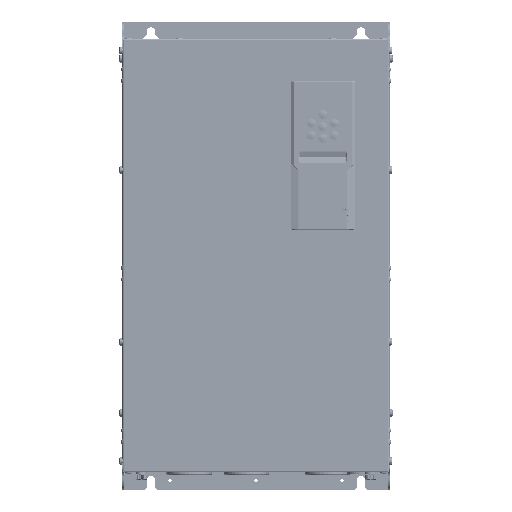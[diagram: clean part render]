
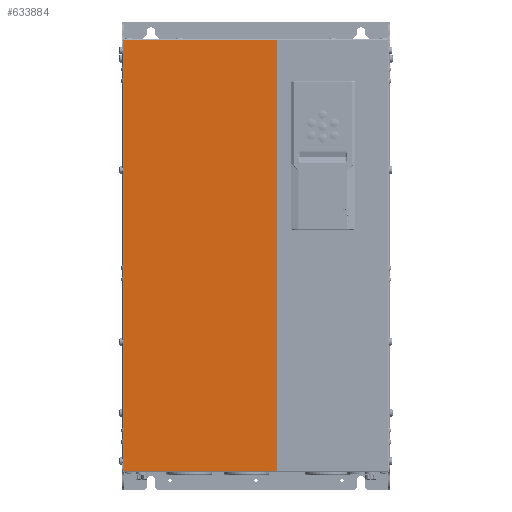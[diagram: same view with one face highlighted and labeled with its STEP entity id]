
A CAD part, top view. The second image highlights one B-rep face of the part: STEP entity #633884.
In plain terms, the highlighted planar face has unit normal (0, 0, 1).
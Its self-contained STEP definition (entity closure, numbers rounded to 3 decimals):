
#632166=DIRECTION('',(0.,-1.,0.));
#632167=VECTOR('',#632166,451.);
#632168=CARTESIAN_POINT('',(22.,450.5,145.5));
#632169=LINE('',#632168,#632167);
#632173=DIRECTION('',(-1.,0.,0.));
#632174=VECTOR('',#632173,160.);
#632175=CARTESIAN_POINT('',(22.,-0.5,145.5));
#632176=LINE('',#632175,#632174);
#632180=DIRECTION('',(-1.,0.,0.));
#632181=VECTOR('',#632180,160.);
#632182=CARTESIAN_POINT('',(22.,450.5,145.5));
#632183=LINE('',#632182,#632181);
#632223=DIRECTION('',(0.,1.,0.));
#632224=VECTOR('',#632223,451.);
#632225=CARTESIAN_POINT('',(-138.,-0.5,145.5));
#632226=LINE('',#632225,#632224);
#633416=CARTESIAN_POINT('',(22.,450.5,145.5));
#633417=CARTESIAN_POINT('',(22.,-0.5,145.5));
#633418=VERTEX_POINT('',#633416);
#633419=VERTEX_POINT('',#633417);
#633576=CARTESIAN_POINT('',(-138.,450.5,145.5));
#633577=VERTEX_POINT('',#633576);
#633581=CARTESIAN_POINT('',(-138.,-0.5,145.5));
#633583=VERTEX_POINT('',#633581);
#633872=CARTESIAN_POINT('',(-139.5,452.,145.5));
#633873=DIRECTION('',(0.,0.,1.));
#633874=DIRECTION('',(0.,-1.,0.));
#633875=AXIS2_PLACEMENT_3D('',#633872,#633873,#633874);
#633876=PLANE('',#633875);
#633877=ORIENTED_EDGE('',*,*,#633864,.T.);
#633878=ORIENTED_EDGE('',*,*,#633792,.T.);
#633880=ORIENTED_EDGE('',*,*,#633879,.T.);
#633881=ORIENTED_EDGE('',*,*,#633844,.F.);
#633882=EDGE_LOOP('',(#633877,#633878,#633880,#633881));
#633883=FACE_OUTER_BOUND('',#633882,.F.);
#633884=ADVANCED_FACE('',(#633883),#633876,.T.);
#633792=EDGE_CURVE('',#633419,#633583,#632176,.T.);
#633844=EDGE_CURVE('',#633418,#633577,#632183,.T.);
#633864=EDGE_CURVE('',#633418,#633419,#632169,.T.);
#633879=EDGE_CURVE('',#633583,#633577,#632226,.T.);
